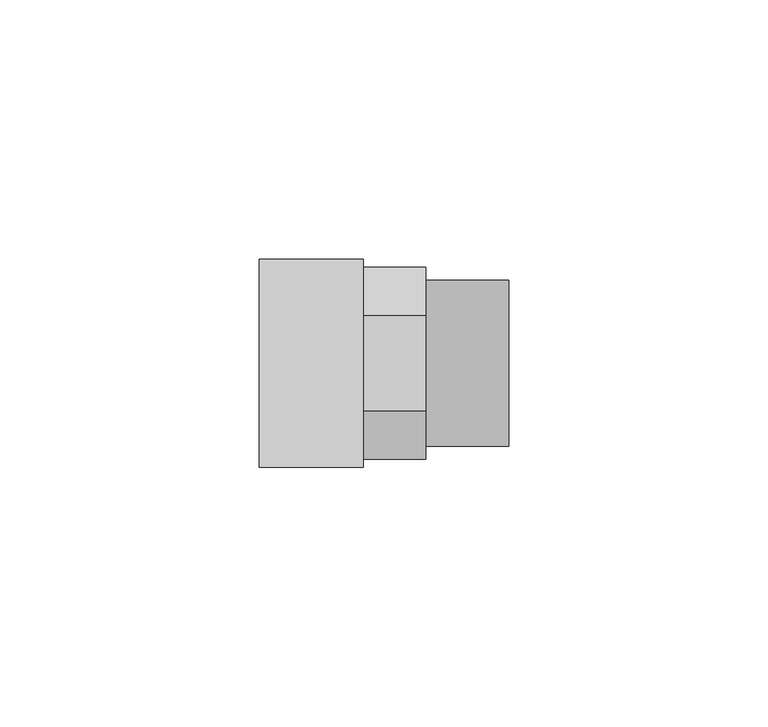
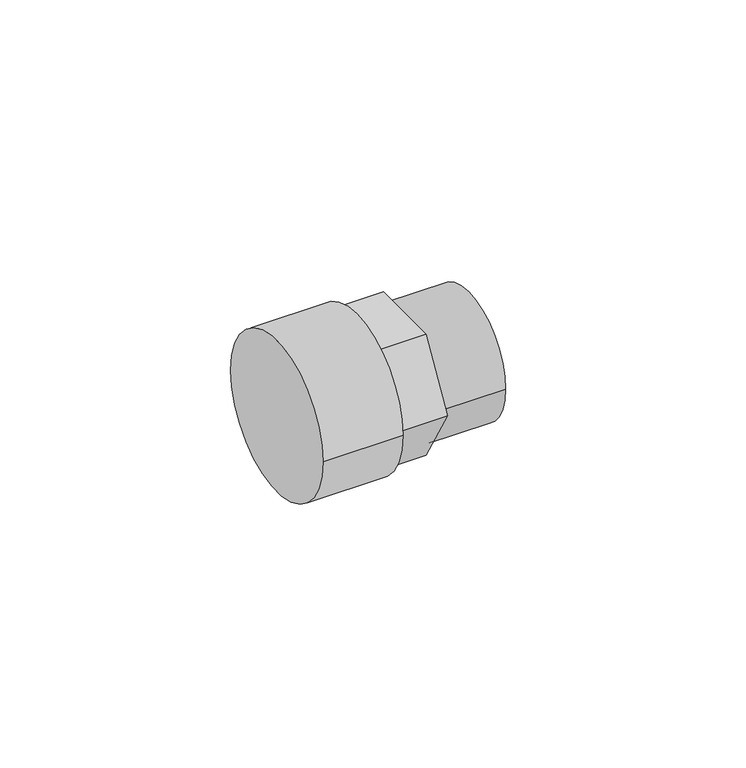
"""IFC4 building model written with IfcOpenShell, lengths in millimetres: pipe fitting geometry, 01011006 : Mamelons de réductio MxF."""

from ifc_helpers import new_model, si_unit, point, frame, origin, origin_2d, place, context, project, spatial, polyline, circle_curve, trimmed, segment, composite_curve, outline, extrude, source, transform, mapped, element, save


def pipe_fitting_7d431246(model_context):
    return source(origin(), model_context, "Body", "SweptSolid", [
        extrude(outline(composite_curve([segment(trimmed(circle_curve(origin_2d(), 20.0), [point((20.0, 0.0))], [point((-20.0, 0.0))], False, "CARTESIAN"), True, "CONTINUOUS"), segment(trimmed(circle_curve(origin_2d(), 20.0), [point((-20.0, 0.0))], [point((20.0, 0.0))], False, "CARTESIAN"), True, "CONTINUOUS")], self_intersect=False)), frame((0.0, 0.0, 0.0), z_axis=(1.0, 0.0, 0.0), x_axis=(0.0, 1.0, 0.0)), (0.0, 0.0, 1.0), 20.0),
        extrude(outline(polyline([(-9.2376043, 16.0), (9.2376043, 16.0), (18.4752086, 0.0), (9.2376043, -16.0), (-9.2376043, -16.0), (-18.4752086, 0.0), (-9.2376043, 16.0)])), frame((20.0, 0.0, 0.0), z_axis=(1.0, 0.0, 0.0), x_axis=(0.0, 1.0, 0.0)), (0.0, 0.0, 1.0), 12.0),
        extrude(outline(composite_curve([segment(trimmed(circle_curve(origin_2d(), 16.0), [point((-16.0, 0.0))], [point((16.0, 0.0))], False, "CARTESIAN"), True, "CONTINUOUS"), segment(trimmed(circle_curve(origin_2d(), 16.0), [point((16.0, 0.0))], [point((-16.0, 0.0))], False, "CARTESIAN"), True, "CONTINUOUS")], self_intersect=False)), frame((32.0, 0.0, 0.0), z_axis=(1.0, 0.0, 0.0), x_axis=(0.0, 1.0, 0.0)), (0.0, 0.0, 1.0), 16.0),
    ])


if __name__ == "__main__":
    model = new_model("IFC4")
    model_context = context("Model", 3, world=origin())
    ifc_project = project(units=[si_unit("LENGTHUNIT", "METRE", prefix="MILLI")], contexts=[model_context])
    site = spatial("IfcSite", under=ifc_project)
    building = spatial("IfcBuilding", under=site)
    placement = place(None, origin())
    pipe_fitting_shape = pipe_fitting_7d431246(model_context)
    element("IfcPipeFitting", 1, ObjectType="01011006 : Mamelons de réductio MxF", at=placement, inside=building, context=model_context, shape_type="MappedRepresentation", body=[
        mapped(pipe_fitting_shape, transform((0.0, 0.0, 0.0), x_axis=(1.0, 0.0, 0.0), y_axis=(0.0, 1.0, 0.0), z_axis=(0.0, 0.0, 1.0))),
    ])
    save(model, "model.ifc")
